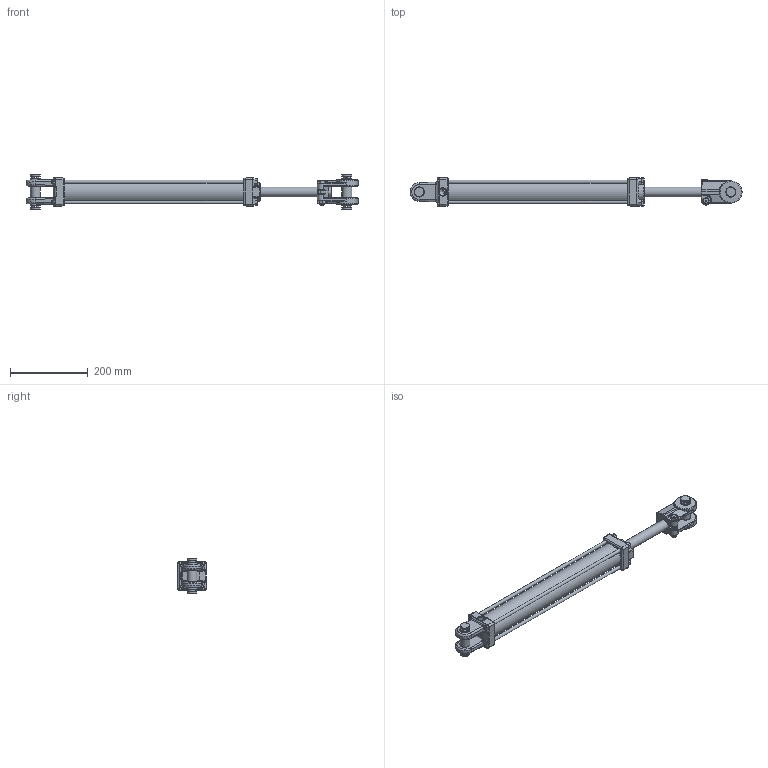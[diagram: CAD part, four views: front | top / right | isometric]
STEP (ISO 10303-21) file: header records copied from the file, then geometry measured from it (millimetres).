
FILE_DESCRIPTION((''),'2;1');
FILE_NAME('\\SRVR-ENG\EngSales\pmc-8416.stp','2013-04-01T08:30:04',('KneiflD'),(''),'Autodesk Inventor 2012','Autodesk Inventor 2012','');
FILE_SCHEMA(('AUTOMOTIVE_DESIGN { 1 0 10303 214 1 1 1 1 }'));
Length unit declared in the file: inch
Products named in the file (15): pmc-8416; 1411005NE; 051118063A; 010400012; 071100157; 220000208; 0811ABANE; 170103201; 220000103; 100000425; 100000424; 170002104; 220000203; 190400001
Assembly tree (18 placements, depth 3):
  pmc-8416
    1411005NE
    051118063A
    010400012
    071100157
    220000208
    0811ABANE
    170103201  x4
      170103201
      220000103
    100000425
      100000424
      170002104
      220000203
    190400001  x2
Bounding box: 851.7 x 73.15 x 88.9 mm (x, y, z)
Volume: 1489874.5 mm3; surface area: 415800.7 mm2
Topology: 19 solids, 19 shells, 945 faces, 2251 edges, 1347 vertices
Faces by surface type: bspline 282, plane 272, cylinder 217, cone 116, torus 39, sphere 19
Full cylindrical faces by diameter (mm): 5.159 x4, 7.798 x9, 8.458 x4, 9.493 x1, 10.319 x4, 10.414 x2, 17.323 x1, 17.475 x3, 18.999 x1, 19.126 x1, 21.615 x1, 25.222 x1, 25.4 x7, 25.476 x2, 25.781 x4, 28.397 x1, 30.175 x1, 31.445 x1, 31.725 x1, 34.925 x1, 41.25 x1, 45.136 x2, 50.571 x6, 50.8 x1, 57.15 x2, 60.325 x1
Entity records: 31241 total; most frequent: CARTESIAN_POINT 12922, ORIENTED_EDGE 3800, DIRECTION 3229, EDGE_CURVE 1900, AXIS2_PLACEMENT_3D 1300, VERTEX_POINT 1203, EDGE_LOOP 1021, FACE_OUTER_BOUND 846
